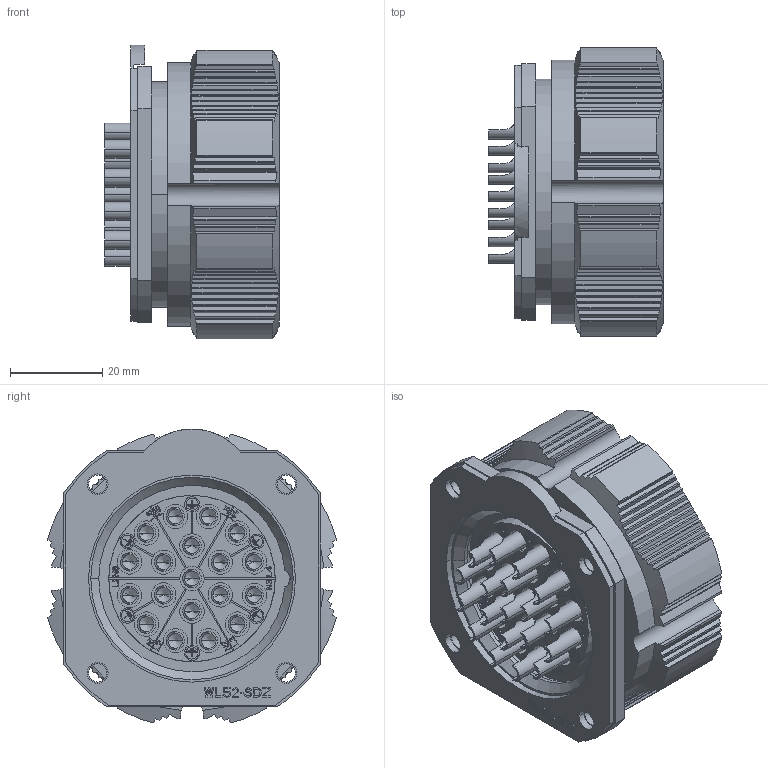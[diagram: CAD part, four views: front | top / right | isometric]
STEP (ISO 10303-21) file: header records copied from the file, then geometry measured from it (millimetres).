
FILE_DESCRIPTION((''),'2;1');
FILE_NAME('WLS52-JZ_7_3','2020-05-06T',('Administrator'),(''),'CREO PARAMETRIC BY PTC INC, 2016130','CREO PARAMETRIC BY PTC INC, 2016130','');
FILE_SCHEMA(('CONFIG_CONTROL_DESIGN'));
Products named in the file (1): WLS52-JZ_7_3
Bounding box: 38 x 62.74 x 63.85 mm (x, y, z)
Volume: 48348.1 mm3; surface area: 31319.5 mm2
Topology: 1 solids, 3 shells, 2392 faces, 6624 edges, 4361 vertices
Faces by surface type: plane 1906, cylinder 389, cone 56, sphere 38, bspline 3
Entity records: 78264 total; most frequent: CARTESIAN_POINT 17777, ORIENTED_EDGE 13096, DIRECTION 11517, EDGE_CURVE 6548, VECTOR 5237, LINE 5237, VERTEX_POINT 4361, AXIS2_PLACEMENT_3D 3140
